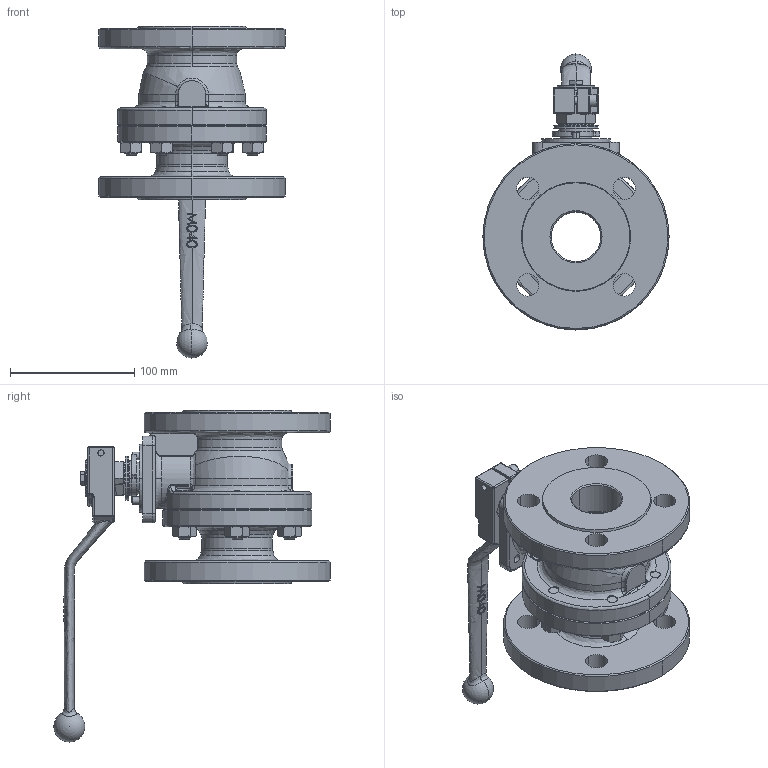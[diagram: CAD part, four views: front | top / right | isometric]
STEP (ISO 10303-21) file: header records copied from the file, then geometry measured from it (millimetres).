
FILE_DESCRIPTION (( 'STEP AP214' ), '1' );
FILE_NAME ('0540040 con maneta.STEP', '2016-10-06T18:01:11', ( '' ), ( '' ), 'SwSTEP 2.0', 'SolidWorks 2016', '' );
FILE_SCHEMA (( 'AUTOMOTIVE_DESIGN' ));
Length unit declared in the file: millimetre
Products named in the file (19): 0540040C; 5130_17; M040; DIN 933 - M6 x 12_DIN 933 - M6 x 12; 200040_41; DIN 6325 - Ø6x16; 00400930; 0540040L; EPI40Q; JT40FV (25,7x18x2); P40G (26x18x5)_Comprimida; DIN 934 - M10; 5240_46; 00400710; 0540040 con maneta; DIN 2093 - B35,5; DIN 912 M6 x 20 --- 20C_DIN 912 M6 x 20 --- 20C; SM10381414; 5140_10-1
Assembly tree (31 placements, depth 2):
  0540040 con maneta
    0540040C
    0540040L
    EPI40Q
    M040
    SM10381414  x6
    DIN 934 - M10  x6
    5130_17
    DIN 933 - M6 x 12_DIN 933 - M6 x 12
    DIN 912 M6 x 20 --- 20C_DIN 912 M6 x 20 --- 20C
    P40G (26x18x5)_Comprimida  x2
    5140_10-1
    JT40FV (25,7x18x2)
    00400930
    200040_41
    DIN 2093 - B35,5  x2
    5240_46
    00400710
    DIN 6325 - Ø6x16  x2
Bounding box: 150 x 222.68 x 267.5 mm (x, y, z)
Volume: 1123665.4 mm3; surface area: 237090.9 mm2
Topology: 31 solids, 31 shells, 953 faces, 2249 edges, 1350 vertices
Faces by surface type: cylinder 306, plane 256, cone 211, bspline 136, sphere 24, torus 20
Entity records: 42840 total; most frequent: CARTESIAN_POINT 25121, ORIENTED_EDGE 3584, DIRECTION 3289, EDGE_CURVE 1792, AXIS2_PLACEMENT_3D 1338, VERTEX_POINT 1103, EDGE_LOOP 855, FACE_OUTER_BOUND 751
